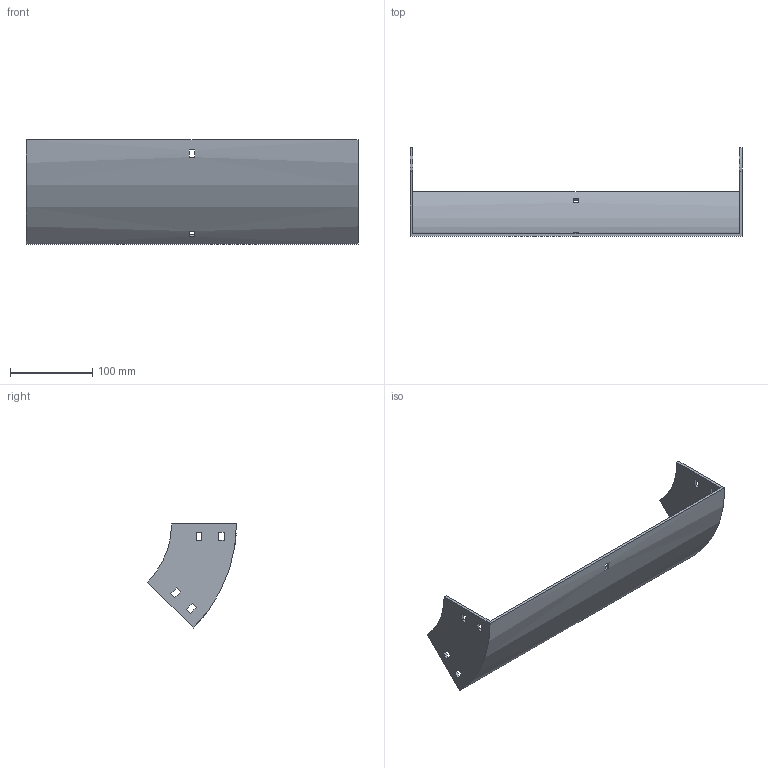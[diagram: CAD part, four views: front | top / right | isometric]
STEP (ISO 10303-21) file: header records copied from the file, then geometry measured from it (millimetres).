
FILE_DESCRIPTION (( 'STEP AP214' ), '1' );
FILE_NAME ('31B1C400.step', '2025-02-21T09:47:48', ( '' ), ( '' ), 'SwSTEP 2.0', 'SolidWorks 2023', '' );
FILE_SCHEMA (( 'AUTOMOTIVE_DESIGN' ));
Length unit declared in the file: millimetre
Products named in the file (1): 31B1C400
Bounding box: 404 x 108.29 x 126.57 mm (x, y, z)
Volume: 251651.9 mm3; surface area: 149415.5 mm2
Topology: 1 solids, 1 shells, 50 faces, 144 edges, 96 vertices
Faces by surface type: plane 46, cylinder 4
Entity records: 1687 total; most frequent: CARTESIAN_POINT 291, ORIENTED_EDGE 288, DIRECTION 262, EDGE_CURVE 144, LINE 128, VECTOR 128, VERTEX_POINT 96, EDGE_LOOP 70
